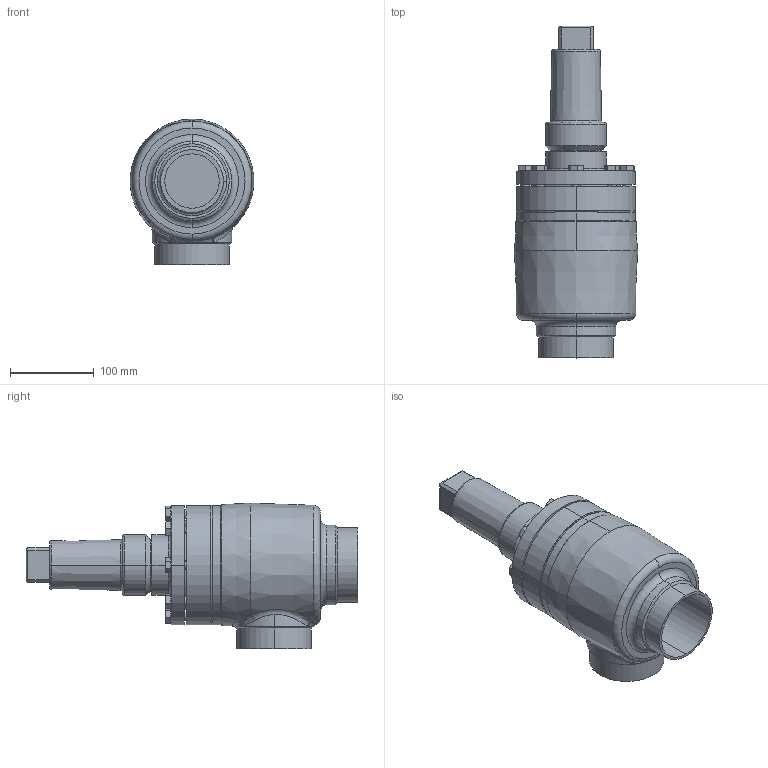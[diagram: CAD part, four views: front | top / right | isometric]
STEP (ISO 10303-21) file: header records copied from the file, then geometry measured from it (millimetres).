
FILE_DESCRIPTION (( 'STEP AP214' ), '1' );
FILE_NAME ('RVAK27400D18-DN080_R1_PS40.STEP', '2007-01-08T09:24:29', ( 'Herr Grams' ), ( 'AWP GmbH' ), 'SwSTEP 2.0', 'SolidWorks 2002296', '' );
FILE_SCHEMA (( 'AUTOMOTIVE_DESIGN' ));
Length unit declared in the file: millimetre
Products named in the file (9): RVAK27400D18-DN080_R1_PS40; Gehäuse-kpl16400-DN080_R1_Standard; Gehäuse16400-DN080_Standard; bead-DN080-1_Standard; Kopfstück16300-DN080_Standard; Kappe16402_DN080-100_Standard; RVA29300E18_Deck-Schr-DN80_Standard; Deckel29300E18-DN80_Standard; Sechskantschraube-DIN933_M10x 30
Assembly tree (15 placements, depth 3):
  RVAK27400D18-DN080_R1_PS40
    Kappe16402_DN080-100_Standard
    RVA29300E18_Deck-Schr-DN80_Standard
      Sechskantschraube-DIN933_M10x 30  x8
      Deckel29300E18-DN80_Standard
    Gehäuse-kpl16400-DN080_R1_Standard
      Gehäuse16400-DN080_Standard
      Kopfstück16300-DN080_Standard
      bead-DN080-1_Standard
Bounding box: 147.49 x 396 x 173.89 mm (x, y, z)
Volume: 2142712.6 mm3; surface area: 347552.8 mm2
Topology: 13 solids, 13 shells, 352 faces, 756 edges, 453 vertices
Faces by surface type: cone 131, plane 103, cylinder 92, torus 14, bspline 12
Entity records: 16810 total; most frequent: CARTESIAN_POINT 12167, DIRECTION 897, ORIENTED_EDGE 784, EDGE_CURVE 392, AXIS2_PLACEMENT_3D 392, VERTEX_POINT 243, EDGE_LOOP 217, CIRCLE 207
